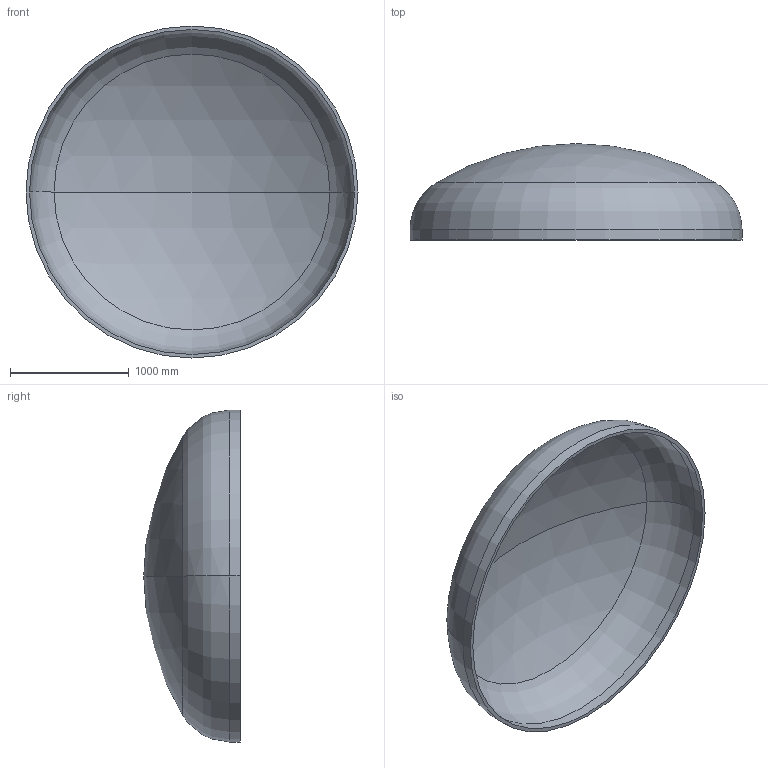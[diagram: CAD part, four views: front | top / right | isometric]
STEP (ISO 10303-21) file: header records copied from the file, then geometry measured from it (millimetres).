
FILE_DESCRIPTION (( 'STEP AP203' ), '1' );
FILE_NAME ('DIN 28013 Korbbogenform_-_Boden DIN 28013 - 2800 x 90 - I - s=30.step', '2016-07-01T16:52:25', ( '' ), ( '' ), 'SwSTEP 2.0', 'SolidWorks 2013', '' );
FILE_SCHEMA (( 'CONFIG_CONTROL_DESIGN' ));
Length unit declared in the file: millimetre
Products named in the file (1): DIN 28013 Korbbogenform_-_Boden DIN 28013 - 2800 x 90 - I - s=30
Bounding box: 2800 x 813.23 x 2800 mm (x, y, z)
Volume: 275601055.1 mm3; surface area: 18636348.2 mm2
Topology: 1 solids, 1 shells, 13 faces, 24 edges, 14 vertices
Faces by surface type: torus 4, cylinder 4, sphere 4, plane 1
Entity records: 407 total; most frequent: DIRECTION 72, CARTESIAN_POINT 52, ORIENTED_EDGE 48, AXIS2_PLACEMENT_3D 34, EDGE_CURVE 24, CIRCLE 20, VERTEX_POINT 14, EDGE_LOOP 14
